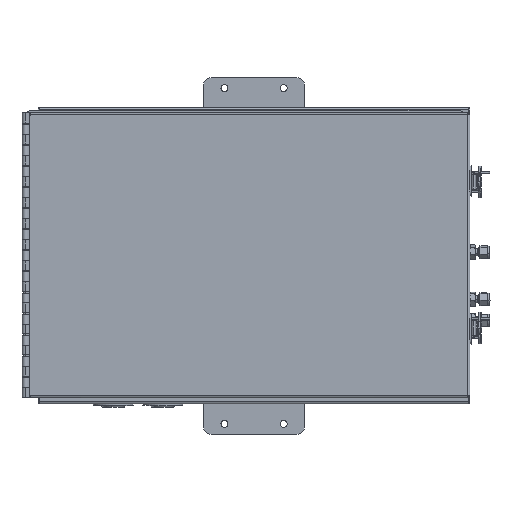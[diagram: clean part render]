
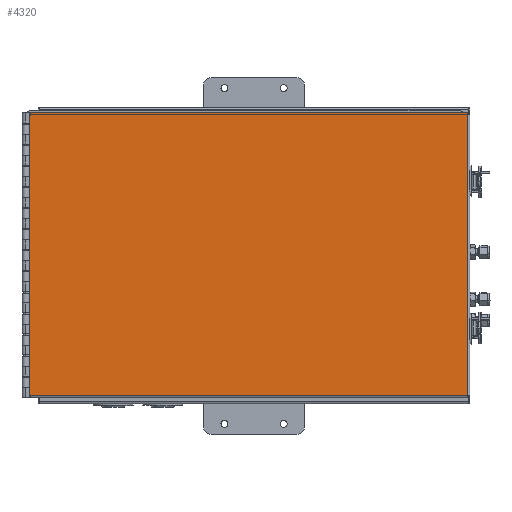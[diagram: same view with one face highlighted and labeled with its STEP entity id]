
A CAD part, top view. The second image highlights one B-rep face of the part: STEP entity #4320.
In plain terms, the highlighted planar face has unit normal (0, 0, 1).
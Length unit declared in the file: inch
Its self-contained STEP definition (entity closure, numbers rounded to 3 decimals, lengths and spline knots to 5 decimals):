
#1490 = ORIENTED_EDGE ( 'NONE', *, *, #8842, .T. ) ;
#1530 = LINE ( 'NONE', #4962, #28894 ) ;
#4257 = EDGE_CURVE ( 'NONE', #39364, #23032, #14782, .T. ) ;
#4320 = ADVANCED_FACE ( 'NONE', ( #30486 ), #5683, .T. ) ;
#4376 = EDGE_LOOP ( 'NONE', ( #27774, #25539, #16215, #1490 ) ) ;
#4962 = CARTESIAN_POINT ( 'NONE',  ( 19.06228, 17.46397, 16.67275 ) ) ;
#5081 = DIRECTION ( 'NONE',  ( 0., 0., 1. ) ) ;
#5683 = PLANE ( 'NONE',  #13999 ) ;
#6567 = LINE ( 'NONE', #24935, #31726 ) ;
#8714 = CARTESIAN_POINT ( 'NONE',  ( -1.74546, 4.03234, 16.67275 ) ) ;
#8842 = EDGE_CURVE ( 'NONE', #16816, #21478, #21871, .T. ) ;
#8911 = DIRECTION ( 'NONE',  ( 1., 0., 0. ) ) ;
#9393 = DIRECTION ( 'NONE',  ( 0., -1., 0. ) ) ;
#13001 = DIRECTION ( 'NONE',  ( -1., 0., 0. ) ) ;
#13577 = CARTESIAN_POINT ( 'NONE',  ( 19.06228, 4.03234, 16.67275 ) ) ;
#13790 = CARTESIAN_POINT ( 'NONE',  ( -1.74546, 4.03234, 16.67275 ) ) ;
#13999 = AXIS2_PLACEMENT_3D ( 'NONE', #29885, #5081, #26889 ) ;
#14782 = LINE ( 'NONE', #8714, #36486 ) ;
#16215 = ORIENTED_EDGE ( 'NONE', *, *, #38729, .T. ) ;
#16282 = EDGE_CURVE ( 'NONE', #21478, #39364, #6567, .T. ) ;
#16816 = VERTEX_POINT ( 'NONE', #23592 ) ;
#16851 = VECTOR ( 'NONE', #13001, 39.37008 ) ;
#21478 = VERTEX_POINT ( 'NONE', #35383 ) ;
#21871 = LINE ( 'NONE', #31344, #16851 ) ;
#23032 = VERTEX_POINT ( 'NONE', #13577 ) ;
#23592 = CARTESIAN_POINT ( 'NONE',  ( 19.06228, 17.46397, 16.67275 ) ) ;
#24935 = CARTESIAN_POINT ( 'NONE',  ( -1.74546, 17.46397, 16.67275 ) ) ;
#25539 = ORIENTED_EDGE ( 'NONE', *, *, #4257, .T. ) ;
#26889 = DIRECTION ( 'NONE',  ( 1., 0., 0. ) ) ;
#27774 = ORIENTED_EDGE ( 'NONE', *, *, #16282, .T. ) ;
#28894 = VECTOR ( 'NONE', #35224, 39.37008 ) ;
#29885 = CARTESIAN_POINT ( 'NONE',  ( 0., 0., 16.67275 ) ) ;
#30486 = FACE_OUTER_BOUND ( 'NONE', #4376, .T. ) ;
#31344 = CARTESIAN_POINT ( 'NONE',  ( -1.74546, 17.46397, 16.67275 ) ) ;
#31726 = VECTOR ( 'NONE', #9393, 39.37008 ) ;
#35224 = DIRECTION ( 'NONE',  ( 0., 1., 0. ) ) ;
#35383 = CARTESIAN_POINT ( 'NONE',  ( -1.74546, 17.46397, 16.67275 ) ) ;
#36486 = VECTOR ( 'NONE', #8911, 39.37008 ) ;
#38729 = EDGE_CURVE ( 'NONE', #23032, #16816, #1530, .T. ) ;
#39364 = VERTEX_POINT ( 'NONE', #13790 ) ;
